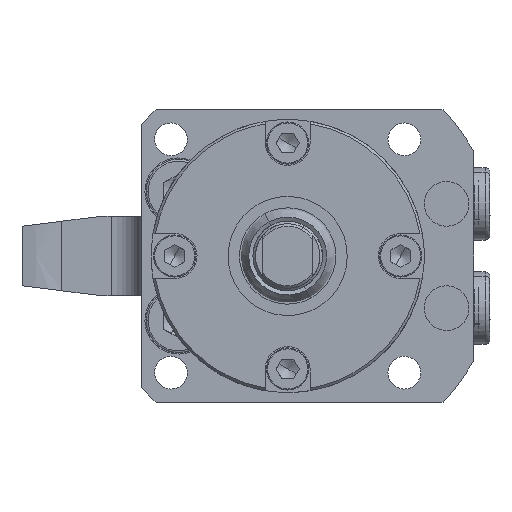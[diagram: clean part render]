
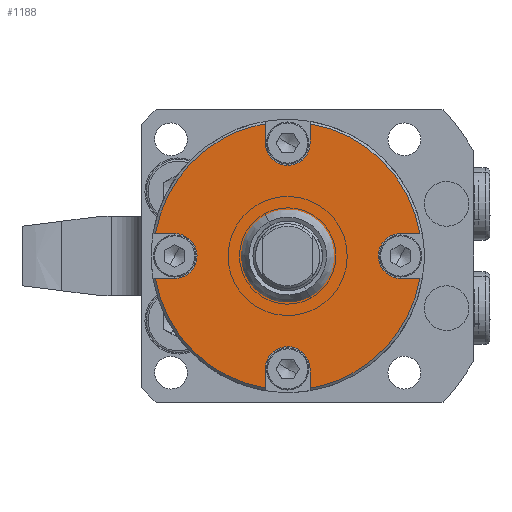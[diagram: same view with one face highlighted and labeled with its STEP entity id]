
A CAD part, front view. The second image highlights one B-rep face of the part: STEP entity #1188.
In plain terms, the highlighted planar face has unit normal (0, -1, 0).
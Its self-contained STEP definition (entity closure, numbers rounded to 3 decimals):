
#81=CARTESIAN_POINT('Vertex',(22.75,-70.,-4.5)) ;
#84=CARTESIAN_POINT('Line Origine',(24.686,-70.,-4.5)) ;
#88=CARTESIAN_POINT('Vertex',(26.622,-70.,-4.5)) ;
#123=CARTESIAN_POINT('Vertex',(22.75,-70.,4.5)) ;
#149=CARTESIAN_POINT('Vertex',(26.622,-70.,4.5)) ;
#152=CARTESIAN_POINT('Line Origine',(24.686,-70.,4.5)) ;
#181=CARTESIAN_POINT('Vertex',(18.801,-70.,2.157)) ;
#184=CARTESIAN_POINT('Axis2P3D Location',(22.75,-70.,0.)) ;
#201=CARTESIAN_POINT('Axis2P3D Location',(0.,-70.,0.)) ;
#205=CARTESIAN_POINT('Vertex',(12.944,-70.,-23.695)) ;
#593=CARTESIAN_POINT('Vertex',(3.356,-70.,-6.143)) ;
#600=CARTESIAN_POINT('Vertex',(-3.356,-70.,6.143)) ;
#603=CARTESIAN_POINT('Axis2P3D Location',(0.,-70.,0.)) ;
#615=CARTESIAN_POINT('Axis2P3D Location',(0.,-70.,0.)) ;
#627=CARTESIAN_POINT('Axis2P3D Location',(22.75,-70.,0.)) ;
#736=CARTESIAN_POINT('Vertex',(-4.5,-70.,26.622)) ;
#743=CARTESIAN_POINT('Vertex',(-12.944,-70.,23.695)) ;
#746=CARTESIAN_POINT('Axis2P3D Location',(0.,-70.,0.)) ;
#763=CARTESIAN_POINT('Vertex',(4.5,-70.,26.622)) ;
#766=CARTESIAN_POINT('Axis2P3D Location',(0.,-70.,0.)) ;
#787=CARTESIAN_POINT('Vertex',(-4.5,-70.,22.75)) ;
#792=CARTESIAN_POINT('Axis2P3D Location',(0.,-70.,22.75)) ;
#796=CARTESIAN_POINT('Vertex',(-2.157,-70.,18.801)) ;
#824=CARTESIAN_POINT('Vertex',(4.5,-70.,22.75)) ;
#832=CARTESIAN_POINT('Axis2P3D Location',(0.,-70.,22.75)) ;
#853=CARTESIAN_POINT('Vertex',(-22.75,-70.,-4.5)) ;
#858=CARTESIAN_POINT('Axis2P3D Location',(-22.75,-70.,0.)) ;
#862=CARTESIAN_POINT('Vertex',(-18.801,-70.,-2.157)) ;
#890=CARTESIAN_POINT('Vertex',(-22.75,-70.,4.5)) ;
#898=CARTESIAN_POINT('Axis2P3D Location',(-22.75,-70.,0.)) ;
#919=CARTESIAN_POINT('Vertex',(4.5,-70.,-22.75)) ;
#924=CARTESIAN_POINT('Axis2P3D Location',(0.,-70.,-22.75)) ;
#928=CARTESIAN_POINT('Vertex',(2.157,-70.,-18.801)) ;
#956=CARTESIAN_POINT('Vertex',(-4.5,-70.,-22.75)) ;
#964=CARTESIAN_POINT('Axis2P3D Location',(0.,-70.,-22.75)) ;
#1062=CARTESIAN_POINT('Vertex',(-4.5,-70.,-26.622)) ;
#1065=CARTESIAN_POINT('Axis2P3D Location',(0.,-70.,0.)) ;
#1069=CARTESIAN_POINT('Vertex',(-26.622,-70.,-4.5)) ;
#1090=CARTESIAN_POINT('Vertex',(-26.622,-70.,4.5)) ;
#1093=CARTESIAN_POINT('Axis2P3D Location',(0.,-70.,0.)) ;
#1110=CARTESIAN_POINT('Vertex',(4.5,-70.,-26.622)) ;
#1113=CARTESIAN_POINT('Axis2P3D Location',(0.,-70.,0.)) ;
#1125=CARTESIAN_POINT('Axis2P3D Location',(0.,-70.,-7.)) ;
#1130=CARTESIAN_POINT('Line Origine',(-4.5,-70.,24.686)) ;
#1135=CARTESIAN_POINT('Line Origine',(-24.686,-70.,4.5)) ;
#1140=CARTESIAN_POINT('Line Origine',(-24.686,-70.,-4.5)) ;
#1145=CARTESIAN_POINT('Line Origine',(-4.5,-70.,-24.686)) ;
#1150=CARTESIAN_POINT('Line Origine',(4.5,-70.,-24.686)) ;
#1155=CARTESIAN_POINT('Line Origine',(4.5,-70.,24.686)) ;
#85=DIRECTION('Vector Direction',(1.,0.,0.)) ;
#153=DIRECTION('Vector Direction',(1.,0.,0.)) ;
#185=DIRECTION('Axis2P3D Direction',(0.,1.,0.)) ;
#202=DIRECTION('Axis2P3D Direction',(0.,-1.,0.)) ;
#604=DIRECTION('Axis2P3D Direction',(0.,-1.,0.)) ;
#616=DIRECTION('Axis2P3D Direction',(0.,-1.,0.)) ;
#628=DIRECTION('Axis2P3D Direction',(0.,1.,0.)) ;
#747=DIRECTION('Axis2P3D Direction',(0.,-1.,0.)) ;
#767=DIRECTION('Axis2P3D Direction',(0.,-1.,0.)) ;
#793=DIRECTION('Axis2P3D Direction',(0.,1.,0.)) ;
#833=DIRECTION('Axis2P3D Direction',(0.,1.,0.)) ;
#859=DIRECTION('Axis2P3D Direction',(0.,1.,0.)) ;
#899=DIRECTION('Axis2P3D Direction',(0.,1.,0.)) ;
#925=DIRECTION('Axis2P3D Direction',(0.,1.,0.)) ;
#965=DIRECTION('Axis2P3D Direction',(0.,1.,0.)) ;
#1066=DIRECTION('Axis2P3D Direction',(0.,-1.,0.)) ;
#1094=DIRECTION('Axis2P3D Direction',(0.,-1.,0.)) ;
#1114=DIRECTION('Axis2P3D Direction',(0.,-1.,0.)) ;
#1126=DIRECTION('Axis2P3D Direction',(0.,-1.,0.)) ;
#1127=DIRECTION('Axis2P3D XDirection',(1.,0.,0.)) ;
#1131=DIRECTION('Vector Direction',(0.,0.,1.)) ;
#1136=DIRECTION('Vector Direction',(-1.,0.,0.)) ;
#1141=DIRECTION('Vector Direction',(-1.,0.,0.)) ;
#1146=DIRECTION('Vector Direction',(0.,0.,-1.)) ;
#1151=DIRECTION('Vector Direction',(0.,0.,-1.)) ;
#1156=DIRECTION('Vector Direction',(0.,0.,1.)) ;
#186=AXIS2_PLACEMENT_3D('Circle Axis2P3D',#184,#185,$) ;
#203=AXIS2_PLACEMENT_3D('Circle Axis2P3D',#201,#202,$) ;
#605=AXIS2_PLACEMENT_3D('Circle Axis2P3D',#603,#604,$) ;
#617=AXIS2_PLACEMENT_3D('Circle Axis2P3D',#615,#616,$) ;
#629=AXIS2_PLACEMENT_3D('Circle Axis2P3D',#627,#628,$) ;
#748=AXIS2_PLACEMENT_3D('Circle Axis2P3D',#746,#747,$) ;
#768=AXIS2_PLACEMENT_3D('Circle Axis2P3D',#766,#767,$) ;
#794=AXIS2_PLACEMENT_3D('Circle Axis2P3D',#792,#793,$) ;
#834=AXIS2_PLACEMENT_3D('Circle Axis2P3D',#832,#833,$) ;
#860=AXIS2_PLACEMENT_3D('Circle Axis2P3D',#858,#859,$) ;
#900=AXIS2_PLACEMENT_3D('Circle Axis2P3D',#898,#899,$) ;
#926=AXIS2_PLACEMENT_3D('Circle Axis2P3D',#924,#925,$) ;
#966=AXIS2_PLACEMENT_3D('Circle Axis2P3D',#964,#965,$) ;
#1067=AXIS2_PLACEMENT_3D('Circle Axis2P3D',#1065,#1066,$) ;
#1095=AXIS2_PLACEMENT_3D('Circle Axis2P3D',#1093,#1094,$) ;
#1115=AXIS2_PLACEMENT_3D('Circle Axis2P3D',#1113,#1114,$) ;
#1128=AXIS2_PLACEMENT_3D('Plane Axis2P3D',#1125,#1126,#1127) ;
#1161=ORIENTED_EDGE('',*,*,#836,.F.) ;
#1162=ORIENTED_EDGE('',*,*,#798,.F.) ;
#1163=ORIENTED_EDGE('',*,*,#1134,.T.) ;
#1164=ORIENTED_EDGE('',*,*,#750,.T.) ;
#1165=ORIENTED_EDGE('',*,*,#1097,.T.) ;
#1166=ORIENTED_EDGE('',*,*,#1139,.F.) ;
#1167=ORIENTED_EDGE('',*,*,#902,.F.) ;
#1168=ORIENTED_EDGE('',*,*,#864,.F.) ;
#1169=ORIENTED_EDGE('',*,*,#1144,.T.) ;
#1170=ORIENTED_EDGE('',*,*,#1071,.T.) ;
#1171=ORIENTED_EDGE('',*,*,#1149,.F.) ;
#1172=ORIENTED_EDGE('',*,*,#968,.F.) ;
#1173=ORIENTED_EDGE('',*,*,#930,.F.) ;
#1174=ORIENTED_EDGE('',*,*,#1154,.T.) ;
#1175=ORIENTED_EDGE('',*,*,#1117,.T.) ;
#1176=ORIENTED_EDGE('',*,*,#207,.T.) ;
#1177=ORIENTED_EDGE('',*,*,#90,.F.) ;
#1178=ORIENTED_EDGE('',*,*,#188,.F.) ;
#1179=ORIENTED_EDGE('',*,*,#631,.F.) ;
#1180=ORIENTED_EDGE('',*,*,#156,.T.) ;
#1181=ORIENTED_EDGE('',*,*,#770,.T.) ;
#1182=ORIENTED_EDGE('',*,*,#1159,.F.) ;
#1185=ORIENTED_EDGE('',*,*,#619,.F.) ;
#1186=ORIENTED_EDGE('',*,*,#607,.F.) ;
#1187=FACE_BOUND('',#1184,.T.) ;
#86=VECTOR('Line Direction',#85,1.) ;
#154=VECTOR('Line Direction',#153,1.) ;
#1132=VECTOR('Line Direction',#1131,1.) ;
#1137=VECTOR('Line Direction',#1136,1.) ;
#1142=VECTOR('Line Direction',#1141,1.) ;
#1147=VECTOR('Line Direction',#1146,1.) ;
#1152=VECTOR('Line Direction',#1151,1.) ;
#1157=VECTOR('Line Direction',#1156,1.) ;
#1188=ADVANCED_FACE('HOUSING',(#1183,#1187),#1129,.T.) ;
#187=CIRCLE('generated circle',#186,4.5) ;
#204=CIRCLE('generated circle',#203,27.) ;
#606=CIRCLE('generated circle',#605,7.) ;
#618=CIRCLE('generated circle',#617,7.) ;
#630=CIRCLE('generated circle',#629,4.5) ;
#749=CIRCLE('generated circle',#748,27.) ;
#769=CIRCLE('generated circle',#768,27.) ;
#795=CIRCLE('generated circle',#794,4.5) ;
#835=CIRCLE('generated circle',#834,4.5) ;
#861=CIRCLE('generated circle',#860,4.5) ;
#901=CIRCLE('generated circle',#900,4.5) ;
#927=CIRCLE('generated circle',#926,4.5) ;
#967=CIRCLE('generated circle',#966,4.5) ;
#1068=CIRCLE('generated circle',#1067,27.) ;
#1096=CIRCLE('generated circle',#1095,27.) ;
#1116=CIRCLE('generated circle',#1115,27.) ;
#90=EDGE_CURVE('',#82,#89,#87,.T.) ;
#156=EDGE_CURVE('',#124,#150,#155,.T.) ;
#188=EDGE_CURVE('',#182,#82,#187,.F.) ;
#207=EDGE_CURVE('',#206,#89,#204,.T.) ;
#607=EDGE_CURVE('',#601,#594,#606,.T.) ;
#619=EDGE_CURVE('',#594,#601,#618,.T.) ;
#631=EDGE_CURVE('',#124,#182,#630,.F.) ;
#750=EDGE_CURVE('',#737,#744,#749,.T.) ;
#770=EDGE_CURVE('',#150,#764,#769,.T.) ;
#798=EDGE_CURVE('',#788,#797,#795,.F.) ;
#836=EDGE_CURVE('',#797,#825,#835,.F.) ;
#864=EDGE_CURVE('',#854,#863,#861,.F.) ;
#902=EDGE_CURVE('',#863,#891,#901,.F.) ;
#930=EDGE_CURVE('',#920,#929,#927,.F.) ;
#968=EDGE_CURVE('',#929,#957,#967,.F.) ;
#1071=EDGE_CURVE('',#1070,#1063,#1068,.T.) ;
#1097=EDGE_CURVE('',#744,#1091,#1096,.T.) ;
#1117=EDGE_CURVE('',#1111,#206,#1116,.T.) ;
#1134=EDGE_CURVE('',#788,#737,#1133,.T.) ;
#1139=EDGE_CURVE('',#891,#1091,#1138,.T.) ;
#1144=EDGE_CURVE('',#854,#1070,#1143,.T.) ;
#1149=EDGE_CURVE('',#957,#1063,#1148,.T.) ;
#1154=EDGE_CURVE('',#920,#1111,#1153,.T.) ;
#1159=EDGE_CURVE('',#825,#764,#1158,.T.) ;
#1160=EDGE_LOOP('',(#1161,#1162,#1163,#1164,#1165,#1166,#1167,#1168,#1169,#1170,#1171,#1172,#1173,#1174,#1175,#1176,#1177,#1178,#1179,#1180,#1181,#1182)) ;
#1184=EDGE_LOOP('',(#1185,#1186)) ;
#1183=FACE_OUTER_BOUND('',#1160,.T.) ;
#87=LINE('Line',#84,#86) ;
#155=LINE('Line',#152,#154) ;
#1133=LINE('Line',#1130,#1132) ;
#1138=LINE('Line',#1135,#1137) ;
#1143=LINE('Line',#1140,#1142) ;
#1148=LINE('Line',#1145,#1147) ;
#1153=LINE('Line',#1150,#1152) ;
#1158=LINE('Line',#1155,#1157) ;
#1129=PLANE('Plane',#1128) ;
#82=VERTEX_POINT('',#81) ;
#89=VERTEX_POINT('',#88) ;
#124=VERTEX_POINT('',#123) ;
#150=VERTEX_POINT('',#149) ;
#182=VERTEX_POINT('',#181) ;
#206=VERTEX_POINT('',#205) ;
#594=VERTEX_POINT('',#593) ;
#601=VERTEX_POINT('',#600) ;
#737=VERTEX_POINT('',#736) ;
#744=VERTEX_POINT('',#743) ;
#764=VERTEX_POINT('',#763) ;
#788=VERTEX_POINT('',#787) ;
#797=VERTEX_POINT('',#796) ;
#825=VERTEX_POINT('',#824) ;
#854=VERTEX_POINT('',#853) ;
#863=VERTEX_POINT('',#862) ;
#891=VERTEX_POINT('',#890) ;
#920=VERTEX_POINT('',#919) ;
#929=VERTEX_POINT('',#928) ;
#957=VERTEX_POINT('',#956) ;
#1063=VERTEX_POINT('',#1062) ;
#1070=VERTEX_POINT('',#1069) ;
#1091=VERTEX_POINT('',#1090) ;
#1111=VERTEX_POINT('',#1110) ;
